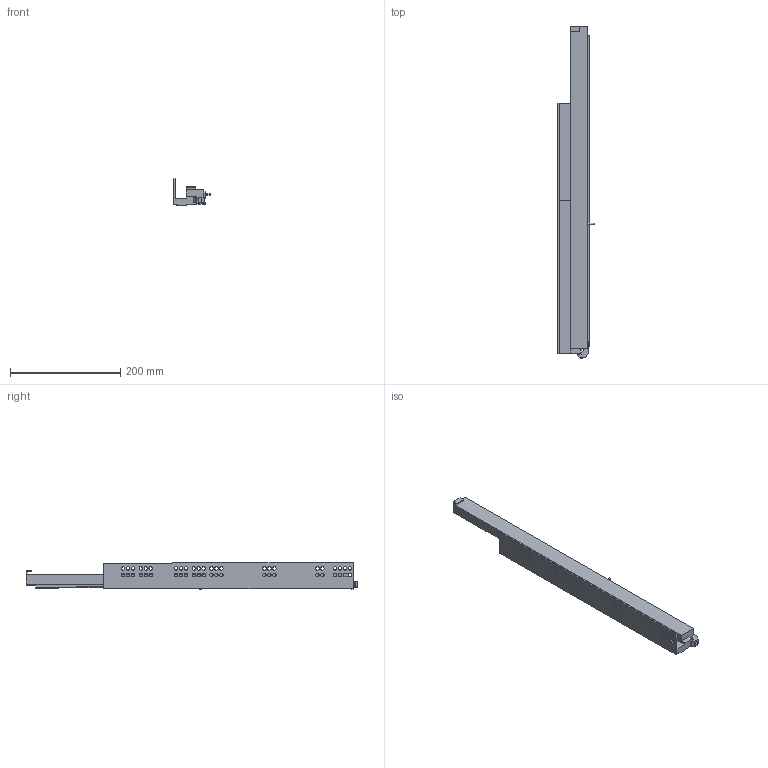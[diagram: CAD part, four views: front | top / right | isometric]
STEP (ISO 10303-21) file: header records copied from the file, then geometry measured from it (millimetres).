
FILE_DESCRIPTION (( 'STEP AP203' ), '1' );
FILE_NAME ('IMOS_Dynapro_Tipmatic_D51_NL_0_LI.STEP', '2013-03-22T12:00:21', ( 'Grass GmbH' ), ( 'Grass GmbH' ), 'SwSTEP 2.0', 'SolidWorks 2012', '' );
FILE_SCHEMA (( 'CONFIG_CONTROL_DESIGN' ));
Length unit declared in the file: millimetre
Products named in the file (1): IMOS_Dynapro_Tipmatic_D51_NL_0_LI
Bounding box: 65.92 x 601.55 x 48.48 mm (x, y, z)
Volume: 569280.6 mm3; surface area: 141478 mm2
Topology: 1 solids, 1 shells, 198 faces, 573 edges, 382 vertices
Faces by surface type: cylinder 101, plane 97
Entity records: 6844 total; most frequent: DIRECTION 1173, CARTESIAN_POINT 1154, ORIENTED_EDGE 1146, EDGE_CURVE 573, AXIS2_PLACEMENT_3D 401, VERTEX_POINT 382, VECTOR 371, LINE 371
